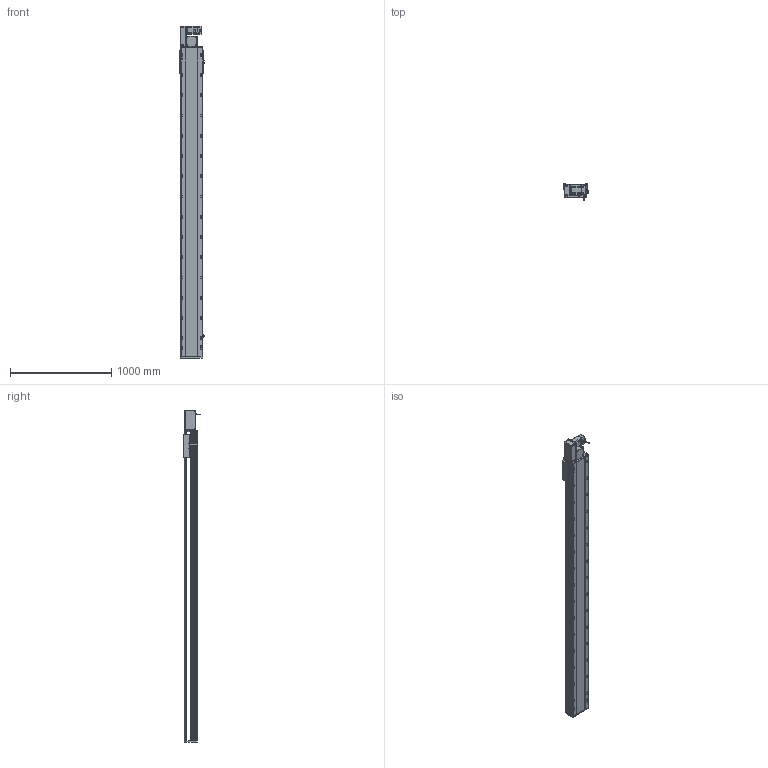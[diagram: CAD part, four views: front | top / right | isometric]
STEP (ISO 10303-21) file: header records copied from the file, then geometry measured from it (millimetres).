
FILE_DESCRIPTION (( 'STEP AP214' ), '1' );
FILE_NAME ('RTB22S-XX-2700-L-M75-C4.STEP', '2025-12-12T03:28:53', ( '' ), ( '' ), 'SwSTEP 2.0', 'SolidWorks 2018', '' );
FILE_SCHEMA (( 'AUTOMOTIVE_DESIGN' ));
Length unit declared in the file: millimetre
Products named in the file (14): RTB22S-GY-001耜裔^RTB22S-XX-XX-L-M75-C4; RTB22S-L-004賑釱^RTB22S-XX-XX-L-M75-C4; RTB22S-L-011菁釱^RTB22S-XX-XX-L-M75-C4; RTB22S-GY-017P^RTB22S-L-々湍釱蚾饜_RTB22S-XX-XX-L-M75-C4; RTB22S-L-々湍釱蚾饜^RTB22S-XX-XX-L-M75-C4; RTB22S-GY-018P^RTB22S-L-々湍釱蚾饜_RTB22S-XX-XX-L-M75-C4; OMRON EE-SX672 传感器^RTB22S-XX-XX-L-M75-C4; RTH22-GY-013外置感应片^RTB22S-XX-XX-L-M75-C4; RTB22S-GY-014--々湍釱^RTB22S-L-々湍釱蚾饜_RTB22S-XX-XX-L-M75-C4; RTB22S-GY-007奻裔^RTB22S-XX-XX-L-M75-C4; 750W萇儂^RTB22S-XX-XX-L-M75-C4; RTB22S-XX-2700-L-M75-C4; RTB22S-GY-005P^RTB22S-L-々湍釱蚾饜_RTB22S-XX-XX-L-M75-C4; RTB22S-GY-008-M75--萇儂啣^RTB22S-L-々湍釱蚾饜_RTB22S-XX-XX-L-M75-C4
Assembly tree (16 placements, depth 3):
  RTB22S-XX-2700-L-M75-C4
    RTB22S-L-011菁釱^RTB22S-XX-XX-L-M75-C4
    750W萇儂^RTB22S-XX-XX-L-M75-C4
    RTB22S-L-004賑釱^RTB22S-XX-XX-L-M75-C4
    OMRON EE-SX672 传感器^RTB22S-XX-XX-L-M75-C4  x3
    RTH22-GY-013外置感应片^RTB22S-XX-XX-L-M75-C4
    RTB22S-GY-007奻裔^RTB22S-XX-XX-L-M75-C4
    RTB22S-GY-001耜裔^RTB22S-XX-XX-L-M75-C4
    RTB22S-L-々湍釱蚾饜^RTB22S-XX-XX-L-M75-C4
      RTB22S-GY-014--々湍釱^RTB22S-L-々湍釱蚾饜_RTB22S-XX-XX-L-M75-C4
      RTB22S-GY-017P^RTB22S-L-々湍釱蚾饜_RTB22S-XX-XX-L-M75-C4  x2
      RTB22S-GY-005P^RTB22S-L-々湍釱蚾饜_RTB22S-XX-XX-L-M75-C4
      RTB22S-GY-008-M75--萇儂啣^RTB22S-L-々湍釱蚾饜_RTB22S-XX-XX-L-M75-C4
      RTB22S-GY-018P^RTB22S-L-々湍釱蚾饜_RTB22S-XX-XX-L-M75-C4
Bounding box: 238.5 x 162.7 x 3279 mm (x, y, z)
Volume: 41092634.5 mm3; surface area: 4197294 mm2
Topology: 15 solids, 15 shells, 2127 faces, 5786 edges, 3692 vertices
Faces by surface type: plane 931, cylinder 718, bspline 296, cone 170, sphere 8, torus 4
Entity records: 58032 total; most frequent: CARTESIAN_POINT 16356, ORIENTED_EDGE 8296, DIRECTION 8122, EDGE_CURVE 4148, AXIS2_PLACEMENT_3D 2918, VERTEX_POINT 2696, LINE 2286, VECTOR 2286
